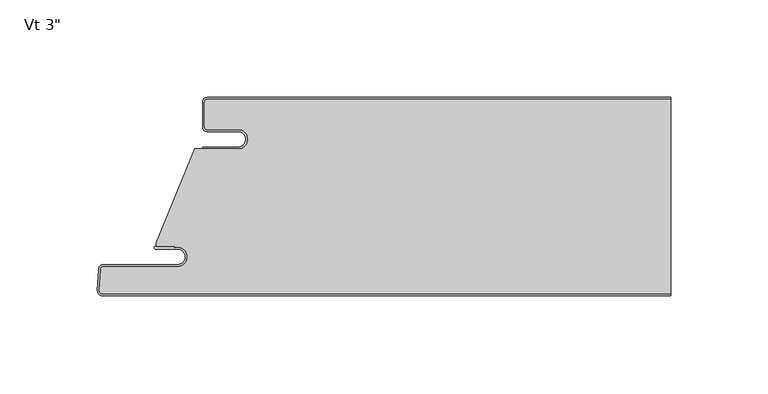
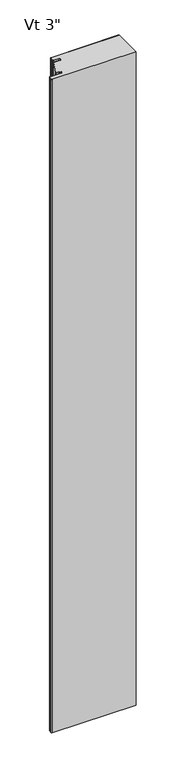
"""IFC4 building model written with IfcOpenShell, lengths in millimetres: plate geometry."""

import ifcopenshell
import ifcopenshell.guid

model = None  # the IFC model being written
_history = None  # IfcOwnerHistory: only IFC2X3 demands one
_inside = {}  # id of a spatial element -> (the spatial element, [elements in it])
_under = {}  # id of a project, library or spatial element -> (it, [spatial elements below it])
_declared = {}  # id of a project -> (the project, [libraries it declares])
_typed = {}  # id of a type object -> (the type object, [elements of that type])
_made_of = {}  # id of a material, layer set ... -> (it, [elements and type objects made of it])


def new_model(schema):
    """Start an empty IFC model of exactly this schema.

    Asked for "IFC4X3", IfcOpenShell would pick the latest addendum, in which some entities
    have other attributes; the version numbers below select the first issue.
    IFC2X3 requires an IfcOwnerHistory on every rooted entity: one is made here for all.
    """
    global model, _history
    if schema == "IFC4X3":
        model = ifcopenshell.file(schema_version=(4, 3, 0, 0))
    else:
        model = ifcopenshell.file(schema=schema)
    _inside.clear()
    _under.clear()
    _declared.clear()
    _typed.clear()
    _made_of.clear()
    _history = None
    if model.schema == "IFC2X3":
        org = make("IfcOrganization", Name="unknown")
        user = make(
            "IfcPersonAndOrganization",
            ThePerson=make("IfcPerson", FamilyName="unknown"),
            TheOrganization=org,
        )
        app = make(
            "IfcApplication",
            ApplicationDeveloper=org,
            Version="unknown",
            ApplicationFullName="unknown",
            ApplicationIdentifier="unknown",
        )
        _history = make(
            "IfcOwnerHistory",
            OwningUser=user,
            OwningApplication=app,
            ChangeAction="ADDED",
            CreationDate=0,
        )
    return model


def make(cls, **values):
    """One entity of the class cls with the attributes given. An attribute that is None is left unset."""
    return model.create_entity(
        cls, **{name: value for name, value in values.items() if value is not None}
    )


def rooted(cls, **values):
    """An entity with a GlobalId (a new one), such as an element, a storey or a relation."""
    return make(cls, GlobalId=ifcopenshell.guid.new(), OwnerHistory=_history, **values)


def si_unit(unit_type, name, prefix=None):
    """IfcSIUnit, for example si_unit("LENGTHUNIT", "METRE", prefix="MILLI")."""
    return make("IfcSIUnit", UnitType=unit_type, Prefix=prefix, Name=name)


def assignment(units):
    """IfcUnitAssignment: the units of a project."""
    return None if units is None else make("IfcUnitAssignment", Units=units)


def point(xyz):
    """IfcCartesianPoint."""
    return None if xyz is None else make("IfcCartesianPoint", Coordinates=xyz)


def direction(xyz):
    """IfcDirection."""
    return None if xyz is None else make("IfcDirection", DirectionRatios=xyz)


def frame(location, z_axis=None, x_axis=None):
    """IfcAxis2Placement3D, a coordinate frame: its origin and axes. An axis left out is left unset."""
    return make(
        "IfcAxis2Placement3D",
        Location=point(location),
        Axis=direction(z_axis),
        RefDirection=direction(x_axis),
    )


def frame_2d(location, x_axis=None):
    """IfcAxis2Placement2D, a coordinate frame in the plane: its origin and x axis."""
    return make(
        "IfcAxis2Placement2D", Location=point(location), RefDirection=direction(x_axis)
    )


def origin():
    """The frame at (0, 0, 0) with its axes left unset."""
    return frame((0.0, 0.0, 0.0))


def origin_with_axes():
    """The frame at (0, 0, 0) with the z axis (0, 0, 1) and the x axis (1, 0, 0) written out."""
    return frame((0.0, 0.0, 0.0), z_axis=(0.0, 0.0, 1.0), x_axis=(1.0, 0.0, 0.0))


def place(relative_to, where):
    """IfcLocalPlacement: puts the frame where relative to a parent placement (None: the world)."""
    return make(
        "IfcLocalPlacement", PlacementRelTo=relative_to, RelativePlacement=where
    )


def context(
    kind, dimensions, precision=None, world=None, true_north=None, identifier=None
):
    """IfcGeometricRepresentationContext, for example the 3D "Model" context."""
    return make(
        "IfcGeometricRepresentationContext",
        ContextIdentifier=identifier,
        ContextType=kind,
        CoordinateSpaceDimension=dimensions,
        Precision=precision,
        WorldCoordinateSystem=world,
        TrueNorth=true_north,
    )


def project(units=None, contexts=None):
    """IfcProject with its units and contexts."""
    return rooted(
        "IfcProject",
        Name="project",
        RepresentationContexts=contexts,
        UnitsInContext=assignment(units),
    )


def spatial(cls, under=None, at=None, **own):
    """A site, building, storey or space (cls), placed at a placement, below another one or the project."""
    s = rooted(cls, ObjectPlacement=at, **own)
    if under is not None:
        _under.setdefault(under.id(), (under, []))[1].append(s)
    return s


def polyline(points):
    """IfcPolyline through the points."""
    return make("IfcPolyline", Points=[point(p) for p in points])


def circle_curve(where, radius):
    """IfcCircle in the frame where."""
    return make("IfcCircle", Position=where, Radius=radius)


def trimmed(basis, trim1, trim2, sense, master):
    """IfcTrimmedCurve: the piece of a basis curve between two trims."""
    return make(
        "IfcTrimmedCurve",
        BasisCurve=basis,
        Trim1=trim1,
        Trim2=trim2,
        SenseAgreement=sense,
        MasterRepresentation=master,
    )


def segment(curve, same_sense, transition):
    """IfcCompositeCurveSegment."""
    return make(
        "IfcCompositeCurveSegment",
        Transition=transition,
        SameSense=same_sense,
        ParentCurve=curve,
    )


def composite_curve(segments, self_intersect=None):
    """IfcCompositeCurve: segments joined end to end."""
    return make("IfcCompositeCurve", Segments=segments, SelfIntersect=self_intersect)


def outline(outer, holes=None, kind="AREA"):
    """IfcArbitraryClosedProfileDef: a profile drawn as a closed curve; with holes, ...WithVoids."""
    if holes is None:
        return make("IfcArbitraryClosedProfileDef", ProfileType=kind, OuterCurve=outer)
    return make(
        "IfcArbitraryProfileDefWithVoids",
        ProfileType=kind,
        OuterCurve=outer,
        InnerCurves=holes,
    )


def extrude(swept, where, along, depth):
    """IfcExtrudedAreaSolid: the profile swept, set in the frame where, extruded along a direction by depth."""
    return make(
        "IfcExtrudedAreaSolid",
        SweptArea=swept,
        Position=where,
        ExtrudedDirection=direction(along),
        Depth=depth,
    )


def shape(context_of_items, identifier, shape_type, items):
    """IfcShapeRepresentation: the items that make up one representation, for example the "Body"."""
    return make(
        "IfcShapeRepresentation",
        ContextOfItems=context_of_items,
        RepresentationIdentifier=identifier,
        RepresentationType=shape_type,
        Items=items,
    )


def source(mapping_origin, context_of_items, identifier, shape_type, items):
    """IfcRepresentationMap: a shape defined once, which mapped items show again and again."""
    return make(
        "IfcRepresentationMap",
        MappingOrigin=mapping_origin,
        MappedRepresentation=shape(context_of_items, identifier, shape_type, items),
    )


def transform(
    local_origin,
    x_axis=None,
    y_axis=None,
    z_axis=None,
    scale=None,
    scale2=None,
    scale3=None,
    uniform=True,
):
    """IfcCartesianTransformationOperator3D, or its non-uniform kind. x_axis, y_axis, z_axis: its Axis1, 2, 3."""
    if uniform:
        return make(
            "IfcCartesianTransformationOperator3D",
            Axis1=direction(x_axis),
            Axis2=direction(y_axis),
            LocalOrigin=point(local_origin),
            Scale=scale,
            Axis3=direction(z_axis),
        )
    return make(
        "IfcCartesianTransformationOperator3DnonUniform",
        Axis1=direction(x_axis),
        Axis2=direction(y_axis),
        LocalOrigin=point(local_origin),
        Scale=scale,
        Axis3=direction(z_axis),
        Scale2=scale2,
        Scale3=scale3,
    )


def mapped(mapping_source, mapping_target):
    """IfcMappedItem: shows the shape of a source again, moved by a transform."""
    return make(
        "IfcMappedItem", MappingSource=mapping_source, MappingTarget=mapping_target
    )


def made_of(thing, what):
    """Note that an element or type object is made of a material, layer set ...; save() writes the relation."""
    if what is not None:
        _made_of.setdefault(what.id(), (what, []))[1].append(thing)
    return thing


def element(
    cls,
    number,
    at=None,
    inside=None,
    cuts=None,
    type_object=None,
    material=None,
    context=None,
    identifier="Body",
    shape_type=None,
    held_by="IfcProductDefinitionShape",
    body=None,
    shapes=None,
    **own,
):
    """One element of the class cls, such as IfcWall. Its Tag is "e" and its number.

    at: its placement. inside: the storey or other place that contains it. cuts: it is an
    opening in that element (IfcRelVoidsElement). A single representation is given by context,
    identifier, shape_type and body (its items); several are given by shapes. held_by: the class
    of the entity that holds the representations. save() writes the other relations.
    """
    e = rooted(cls, Tag="e%d" % number, ObjectPlacement=at, **own)
    if body is not None:
        shapes = [shape(context, identifier, shape_type, body)]
    if shapes is not None:
        e.Representation = make(held_by, Representations=shapes)
    if inside is not None:
        _inside.setdefault(inside.id(), (inside, []))[1].append(e)
    if cuts is not None:
        rooted(
            "IfcRelVoidsElement", RelatingBuildingElement=cuts, RelatedOpeningElement=e
        )
    if type_object is not None:
        _typed.setdefault(type_object.id(), (type_object, []))[1].append(e)
    return made_of(e, material)


def aggregate(whole, parts):
    """IfcRelAggregates: a whole, such as a stair, and the parts it consists of."""
    return rooted("IfcRelAggregates", RelatingObject=whole, RelatedObjects=parts)


def save(model, path):
    """Write the relations noted so far, then the file.

    IfcRelAggregates (storeys below a building ...), IfcRelContainedInSpatialStructure (elements
    in a storey), IfcRelDefinesByType, IfcRelAssociatesMaterial and IfcRelDeclares: one each for
    every whole, place, type object, material and project.
    """
    for whole, parts in _under.values():
        aggregate(whole, parts)
    for where, things in _inside.values():
        rooted(
            "IfcRelContainedInSpatialStructure",
            RelatedElements=things,
            RelatingStructure=where,
        )
    for kind, things in _typed.values():
        rooted("IfcRelDefinesByType", RelatedObjects=things, RelatingType=kind)
    for what, things in _made_of.values():
        rooted("IfcRelAssociatesMaterial", RelatedObjects=things, RelatingMaterial=what)
    for by, libraries in _declared.values():
        rooted("IfcRelDeclares", RelatingContext=by, RelatedDefinitions=libraries)
    model.write(path)


def plate_e6b5dcf6(model_context):
    return source(origin(), model_context, "Body", "SweptSolid", [
        extrude(outline(composite_curve([segment(polyline([(-101.3437498, -16.4625), (-117.2187498, -16.4625)]), True, "CONTINUOUS"), segment(trimmed(circle_curve(frame_2d((-117.2187498, -15.08125)), 1.38125), [point((-117.2187498, -16.4625))], [point((-118.5999998, -15.08125))], False, "CARTESIAN"), True, "CONTINUOUS"), segment(polyline([(-118.5999998, -15.08125), (-118.5999998, -2.38125)]), True, "CONTINUOUS"), segment(trimmed(circle_curve(frame_2d((-117.2187498, -2.38125)), 1.38125), [point((-118.5999998, -2.38125))], [point((-117.2187498, -1.0))], False, "CARTESIAN"), True, "CONTINUOUS"), segment(polyline([(-117.2187498, -1.0), (120.4062498, -1.0), (120.4062498, -100.6), (-171.0799534, -100.6)]), True, "CONTINUOUS"), segment(trimmed(circle_curve(frame_2d((-171.0799534, -99.21875)), 1.38125), [point((-171.0799534, -100.6))], [point((-172.4593104, -99.146461))], False, "CARTESIAN"), True, "CONTINUOUS"), segment(polyline([(-172.4593104, -99.146461), (-171.876929, -88.033961)]), True, "CONTINUOUS"), segment(trimmed(circle_curve(frame_2d((-170.4975719, -88.10625)), 1.38125), [point((-171.876929, -88.033961))], [point((-170.4975719, -86.725))], False, "CARTESIAN"), True, "CONTINUOUS"), segment(polyline([(-170.4975719, -86.725), (-132.3142673, -86.725)]), True, "CONTINUOUS"), segment(trimmed(circle_curve(frame_2d((-132.3142673, -81.75625)), 4.96875), [point((-132.3142673, -86.725))], [point((-132.3142673, -76.7875))], True, "CARTESIAN"), True, "CONTINUOUS"), segment(polyline([(-132.3142673, -76.7875), (-133.9017673, -76.99375), (-133.9017673, -76.2), (-143.4124998, -76.2), (-143.4124998, -74.6157227), (-123.5260921, -26.4), (-101.3437498, -26.4)]), True, "CONTINUOUS"), segment(trimmed(circle_curve(frame_2d((-101.3437498, -21.43125)), 4.96875), [point((-101.3437498, -26.4))], [point((-101.3437498, -16.4625))], True, "CARTESIAN"), True, "CONTINUOUS")], self_intersect=False)), origin_with_axes(), (0.0, 0.0, 1.0), 2400.0),
        extrude(outline(composite_curve([segment(polyline([(-119.5999998, -25.4), (-101.3437498, -25.4)]), True, "CONTINUOUS"), segment(trimmed(circle_curve(frame_2d((-101.3437498, -21.43125)), 3.96875), [point((-101.3437498, -25.4))], [point((-101.3437498, -17.4625))], True, "CARTESIAN"), True, "CONTINUOUS"), segment(polyline([(-101.3437498, -17.4625), (-117.2187498, -17.4625)]), True, "CONTINUOUS"), segment(trimmed(circle_curve(frame_2d((-117.2187498, -15.08125)), 2.38125), [point((-117.2187498, -17.4625))], [point((-119.5999998, -15.08125))], False, "CARTESIAN"), True, "CONTINUOUS"), segment(polyline([(-119.5999998, -15.08125), (-119.5999998, -2.38125)]), True, "CONTINUOUS"), segment(trimmed(circle_curve(frame_2d((-117.2187498, -2.38125)), 2.38125), [point((-119.5999998, -2.38125))], [point((-117.2187498, 0.0))], False, "CARTESIAN"), True, "CONTINUOUS"), segment(polyline([(-117.2187498, 0.0), (120.4062498, 0.0), (120.4062498, -1.0), (-117.2187498, -1.0)]), True, "CONTINUOUS"), segment(trimmed(circle_curve(frame_2d((-117.2187498, -2.38125)), 1.38125), [point((-117.2187498, -1.0))], [point((-118.5999998, -2.38125))], True, "CARTESIAN"), True, "CONTINUOUS"), segment(polyline([(-118.5999998, -2.38125), (-118.5999998, -15.08125)]), True, "CONTINUOUS"), segment(trimmed(circle_curve(frame_2d((-117.2187498, -15.08125)), 1.38125), [point((-118.5999998, -15.08125))], [point((-117.2187498, -16.4625))], True, "CARTESIAN"), True, "CONTINUOUS"), segment(polyline([(-117.2187498, -16.4625), (-101.3437498, -16.4625)]), True, "CONTINUOUS"), segment(trimmed(circle_curve(frame_2d((-101.3437498, -21.43125)), 4.96875), [point((-101.3437498, -16.4625))], [point((-101.3437498, -26.4))], False, "CARTESIAN"), True, "CONTINUOUS"), segment(polyline([(-101.3437498, -26.4), (-119.5999998, -26.4), (-119.5999998, -25.4)]), True, "CONTINUOUS")], self_intersect=False)), origin_with_axes(), (0.0, 0.0, 1.0), 2400.0),
        extrude(outline(composite_curve([segment(polyline([(-143.6252048, -76.2), (-133.9017673, -76.2), (-133.9017673, -76.99375), (-132.3142673, -76.7875)]), True, "CONTINUOUS"), segment(trimmed(circle_curve(frame_2d((-132.3142673, -81.75625)), 4.96875), [point((-132.3142673, -76.7875))], [point((-132.3142673, -86.725))], False, "CARTESIAN"), True, "CONTINUOUS"), segment(polyline([(-132.3142673, -86.725), (-170.4975719, -86.725)]), True, "CONTINUOUS"), segment(trimmed(circle_curve(frame_2d((-170.4975719, -88.10625)), 1.38125), [point((-170.4975719, -86.725))], [point((-171.876929, -88.033961))], True, "CARTESIAN"), True, "CONTINUOUS"), segment(polyline([(-171.876929, -88.033961), (-172.4593104, -99.146461)]), True, "CONTINUOUS"), segment(trimmed(circle_curve(frame_2d((-171.0799534, -99.21875)), 1.38125), [point((-172.4593104, -99.146461))], [point((-171.0799534, -100.6))], True, "CARTESIAN"), True, "CONTINUOUS"), segment(polyline([(-171.0799534, -100.6), (120.4062498, -100.6), (120.4062498, -101.6), (-171.0799534, -101.6)]), True, "CONTINUOUS"), segment(trimmed(circle_curve(frame_2d((-171.0799534, -99.21875)), 2.38125), [point((-171.0799534, -101.6))], [point((-173.4579399, -99.094125))], False, "CARTESIAN"), True, "CONTINUOUS"), segment(polyline([(-173.4579399, -99.094125), (-172.8755585, -87.981625)]), True, "CONTINUOUS"), segment(trimmed(circle_curve(frame_2d((-170.4975719, -88.10625)), 2.38125), [point((-172.8755585, -87.981625))], [point((-170.4975719, -85.725))], False, "CARTESIAN"), True, "CONTINUOUS"), segment(polyline([(-170.4975719, -85.725), (-132.3142673, -85.725)]), True, "CONTINUOUS"), segment(trimmed(circle_curve(frame_2d((-132.3142673, -81.75625)), 3.96875), [point((-132.3142673, -85.725))], [point((-132.3142673, -77.7875))], True, "CARTESIAN"), True, "CONTINUOUS"), segment(polyline([(-132.3142673, -77.7875), (-143.6252048, -77.7875)]), True, "CONTINUOUS"), segment(trimmed(circle_curve(frame_2d((-143.6252048, -76.99375)), 0.79375), [point((-143.6252048, -77.7875))], [point((-143.6252048, -76.2))], False, "CARTESIAN"), True, "CONTINUOUS")], self_intersect=False)), origin_with_axes(), (0.0, 0.0, 1.0), 2400.0),
    ])


if __name__ == "__main__":
    model = new_model("IFC4")
    model_context = context("Model", 3, world=origin())
    ifc_project = project(units=[si_unit("LENGTHUNIT", "METRE", prefix="MILLI")], contexts=[model_context])
    site = spatial("IfcSite", under=ifc_project)
    building = spatial("IfcBuilding", under=site)
    placement = place(None, origin())
    plate_shape = plate_e6b5dcf6(model_context)
    element("IfcPlate", 1, ObjectType="KIP-12-DWTR-R19-CP-Vt-F : Vt 3\"", at=placement, inside=building, context=model_context, shape_type="MappedRepresentation", body=[
        mapped(plate_shape, transform((0.0, 0.0, 0.0), x_axis=(1.0, 0.0, 0.0), y_axis=(0.0, 1.0, 0.0), z_axis=(0.0, 0.0, 1.0))),
    ])
    save(model, "model.ifc")
